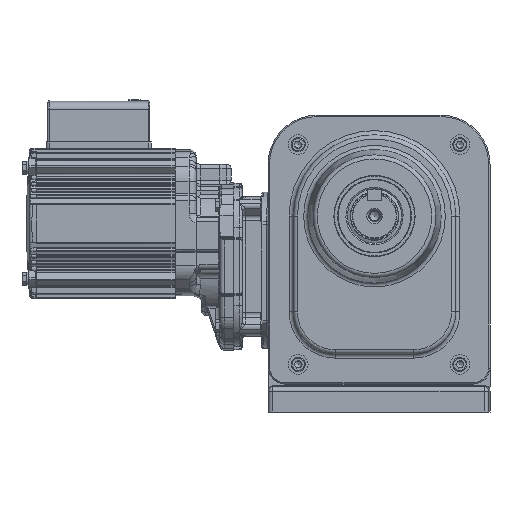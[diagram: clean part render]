
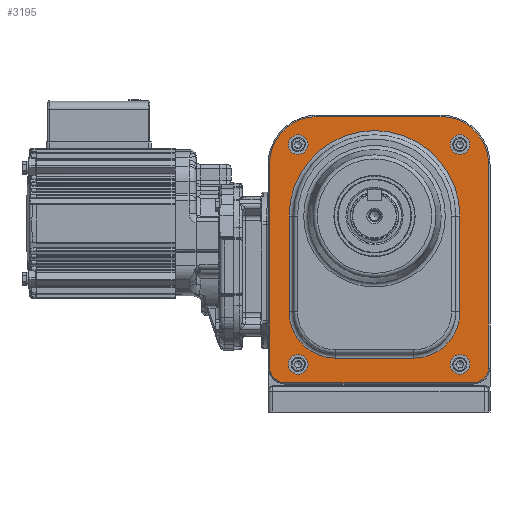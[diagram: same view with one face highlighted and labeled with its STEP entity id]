
A CAD part, front view. The second image highlights one B-rep face of the part: STEP entity #3195.
In plain terms, the highlighted planar face has unit normal (0, -1, 0).
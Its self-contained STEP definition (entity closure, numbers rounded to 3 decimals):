
#3195 = ADVANCED_FACE( '', ( #7649, #7650, #7651, #7652, #7653, #7654 ), #7655, .F. );
#7649 = FACE_BOUND( '', #22214, .T. );
#7650 = FACE_BOUND( '', #22215, .T. );
#7651 = FACE_BOUND( '', #22216, .T. );
#7652 = FACE_BOUND( '', #22217, .T. );
#7653 = FACE_BOUND( '', #22218, .T. );
#7654 = FACE_OUTER_BOUND( '', #22219, .T. );
#7655 = PLANE( '', #22220 );
#22214 = EDGE_LOOP( '', ( #45180 ) );
#22215 = EDGE_LOOP( '', ( #45181 ) );
#22216 = EDGE_LOOP( '', ( #45182 ) );
#22217 = EDGE_LOOP( '', ( #45183 ) );
#22218 = EDGE_LOOP( '', ( #45184, #45185, #45186, #45187, #45188, #45189 ) );
#22219 = EDGE_LOOP( '', ( #45190, #45191, #45192, #45193, #45194, #45195, #45196, #45197 ) );
#22220 = AXIS2_PLACEMENT_3D( '', #45198, #45199, #45200 );
#45180 = ORIENTED_EDGE( '', *, *, #58716, .T. );
#45181 = ORIENTED_EDGE( '', *, *, #55723, .T. );
#45182 = ORIENTED_EDGE( '', *, *, #58717, .T. );
#45183 = ORIENTED_EDGE( '', *, *, #58718, .T. );
#45184 = ORIENTED_EDGE( '', *, *, #58719, .T. );
#45185 = ORIENTED_EDGE( '', *, *, #58720, .T. );
#45186 = ORIENTED_EDGE( '', *, *, #55751, .T. );
#45187 = ORIENTED_EDGE( '', *, *, #58721, .T. );
#45188 = ORIENTED_EDGE( '', *, *, #58722, .T. );
#45189 = ORIENTED_EDGE( '', *, *, #58723, .T. );
#45190 = ORIENTED_EDGE( '', *, *, #56877, .T. );
#45191 = ORIENTED_EDGE( '', *, *, #55504, .T. );
#45192 = ORIENTED_EDGE( '', *, *, #58724, .T. );
#45193 = ORIENTED_EDGE( '', *, *, #58725, .T. );
#45194 = ORIENTED_EDGE( '', *, *, #58726, .T. );
#45195 = ORIENTED_EDGE( '', *, *, #58727, .T. );
#45196 = ORIENTED_EDGE( '', *, *, #58728, .T. );
#45197 = ORIENTED_EDGE( '', *, *, #58729, .T. );
#45198 = CARTESIAN_POINT( '', ( 213., 12.998, -50.212 ) );
#45199 = DIRECTION( '', ( 0., 1., 0. ) );
#45200 = DIRECTION( '', ( 0., 0., -1. ) );
#55504 = EDGE_CURVE( '', #61906, #61904, #61907, .T. );
#55723 = EDGE_CURVE( '', #62300, #62300, #62301, .T. );
#55751 = EDGE_CURVE( '', #62351, #62349, #62352, .T. );
#56877 = EDGE_CURVE( '', #64291, #61906, #64295, .F. );
#58716 = EDGE_CURVE( '', #67162, #67162, #67163, .T. );
#58717 = EDGE_CURVE( '', #67164, #67164, #67165, .T. );
#58718 = EDGE_CURVE( '', #67166, #67166, #67167, .T. );
#58719 = EDGE_CURVE( '', #67168, #67169, #67170, .T. );
#58720 = EDGE_CURVE( '', #67169, #62351, #67171, .T. );
#58721 = EDGE_CURVE( '', #62349, #67172, #67173, .T. );
#58722 = EDGE_CURVE( '', #67172, #67174, #67175, .T. );
#58723 = EDGE_CURVE( '', #67174, #67168, #67176, .T. );
#58724 = EDGE_CURVE( '', #61904, #67177, #67178, .F. );
#58725 = EDGE_CURVE( '', #67177, #67179, #67180, .T. );
#58726 = EDGE_CURVE( '', #67179, #67181, #67182, .F. );
#58727 = EDGE_CURVE( '', #67181, #67183, #67184, .T. );
#58728 = EDGE_CURVE( '', #67183, #67185, #67186, .F. );
#58729 = EDGE_CURVE( '', #67185, #64291, #67187, .T. );
#61904 = VERTEX_POINT( '', #71188 );
#61906 = VERTEX_POINT( '', #71191 );
#61907 = LINE( '', #71192, #71193 );
#62300 = VERTEX_POINT( '', #72024 );
#62301 = CIRCLE( '', #72025, 7. );
#62349 = VERTEX_POINT( '', #72217 );
#62351 = VERTEX_POINT( '', #72219 );
#62352 = CIRCLE( '', #72220, 33. );
#64291 = VERTEX_POINT( '', #77570 );
#64295 = CIRCLE( '', #77575, 11. );
#67162 = VERTEX_POINT( '', #85602 );
#67163 = CIRCLE( '', #85603, 7. );
#67164 = VERTEX_POINT( '', #85604 );
#67165 = CIRCLE( '', #85605, 7. );
#67166 = VERTEX_POINT( '', #85606 );
#67167 = CIRCLE( '', #85607, 7. );
#67168 = VERTEX_POINT( '', #85608 );
#67169 = VERTEX_POINT( '', #85609 );
#67170 = CIRCLE( '', #85610, 33. );
#67171 = LINE( '', #85611, #85612 );
#67172 = VERTEX_POINT( '', #85613 );
#67173 = LINE( '', #85614, #85615 );
#67174 = VERTEX_POINT( '', #85616 );
#67175 = CIRCLE( '', #85617, 61. );
#67176 = LINE( '', #85618, #85619 );
#67177 = VERTEX_POINT( '', #85620 );
#67178 = CIRCLE( '', #85621, 11. );
#67179 = VERTEX_POINT( '', #85622 );
#67180 = LINE( '', #85623, #85624 );
#67181 = VERTEX_POINT( '', #85625 );
#67182 = CIRCLE( '', #85626, 34. );
#67183 = VERTEX_POINT( '', #85627 );
#67184 = LINE( '', #85628, #85629 );
#67185 = VERTEX_POINT( '', #85630 );
#67186 = CIRCLE( '', #85631, 34. );
#67187 = LINE( '', #85632, #85633 );
#71188 = CARTESIAN_POINT( '', ( 213., 12.998, -61.212 ) );
#71191 = CARTESIAN_POINT( '', ( 78.5, 12.998, -61.212 ) );
#71192 = CARTESIAN_POINT( '', ( 213., 12.998, -61.212 ) );
#71193 = VECTOR( '', #94850, 1000. );
#72024 = CARTESIAN_POINT( '', ( 88., 12.999, -41.212 ) );
#72025 = AXIS2_PLACEMENT_3D( '', #95202, #95203, #95204 );
#72217 = CARTESIAN_POINT( '', ( 81.5, 12.999, -10.712 ) );
#72219 = CARTESIAN_POINT( '', ( 114.5, 12.999, -43.712 ) );
#72220 = AXIS2_PLACEMENT_3D( '', #95239, #95240, #95241 );
#77570 = CARTESIAN_POINT( '', ( 67.5, 12.998, -50.212 ) );
#77575 = AXIS2_PLACEMENT_3D( '', #96865, #96866, #96867 );
#85602 = CARTESIAN_POINT( '', ( 88., 13.002, 115.788 ) );
#85603 = AXIS2_PLACEMENT_3D( '', #99443, #99444, #99445 );
#85604 = CARTESIAN_POINT( '', ( 203.5, 12.999, -41.212 ) );
#85605 = AXIS2_PLACEMENT_3D( '', #99446, #99447, #99448 );
#85606 = CARTESIAN_POINT( '', ( 203.5, 13.002, 115.788 ) );
#85607 = AXIS2_PLACEMENT_3D( '', #99449, #99450, #99451 );
#85608 = CARTESIAN_POINT( '', ( 203.5, 12.999, -10.712 ) );
#85609 = CARTESIAN_POINT( '', ( 170.5, 12.999, -43.712 ) );
#85610 = AXIS2_PLACEMENT_3D( '', #99452, #99453, #99454 );
#85611 = CARTESIAN_POINT( '', ( 213., 12.999, -43.712 ) );
#85612 = VECTOR( '', #99455, 1000. );
#85613 = CARTESIAN_POINT( '', ( 81.5, 13.001, 57.788 ) );
#85614 = CARTESIAN_POINT( '', ( 81.5, 12.998, -50.212 ) );
#85615 = VECTOR( '', #99456, 1000. );
#85616 = CARTESIAN_POINT( '', ( 203.5, 13.001, 57.788 ) );
#85617 = AXIS2_PLACEMENT_3D( '', #99457, #99458, #99459 );
#85618 = CARTESIAN_POINT( '', ( 203.5, 12.998, -50.212 ) );
#85619 = VECTOR( '', #99460, 1000. );
#85620 = CARTESIAN_POINT( '', ( 224., 12.998, -50.212 ) );
#85621 = AXIS2_PLACEMENT_3D( '', #99461, #99462, #99463 );
#85622 = CARTESIAN_POINT( '', ( 224., 13.002, 94.788 ) );
#85623 = CARTESIAN_POINT( '', ( 224., 13.002, 94.788 ) );
#85624 = VECTOR( '', #99464, 1000. );
#85625 = CARTESIAN_POINT( '', ( 190., 13.002, 128.788 ) );
#85626 = AXIS2_PLACEMENT_3D( '', #99465, #99466, #99467 );
#85627 = CARTESIAN_POINT( '', ( 101.5, 13.002, 128.788 ) );
#85628 = CARTESIAN_POINT( '', ( 101.5, 13.002, 128.788 ) );
#85629 = VECTOR( '', #99468, 1000. );
#85630 = CARTESIAN_POINT( '', ( 67.5, 13.002, 94.788 ) );
#85631 = AXIS2_PLACEMENT_3D( '', #99469, #99470, #99471 );
#85632 = CARTESIAN_POINT( '', ( 67.5, 12.998, -50.212 ) );
#85633 = VECTOR( '', #99472, 1000. );
#94850 = DIRECTION( '', ( 1., 0., 0. ) );
#95202 = CARTESIAN_POINT( '', ( 88., 12.999, -48.212 ) );
#95203 = DIRECTION( '', ( 0., 1., 0. ) );
#95204 = DIRECTION( '', ( 0., 0., 1. ) );
#95239 = CARTESIAN_POINT( '', ( 114.5, 12.999, -10.712 ) );
#95240 = DIRECTION( '', ( 0., 1., 0. ) );
#95241 = DIRECTION( '', ( 0., 0., -1. ) );
#96865 = CARTESIAN_POINT( '', ( 78.5, 12.998, -50.212 ) );
#96866 = DIRECTION( '', ( 0., 1., 0. ) );
#96867 = DIRECTION( '', ( 0., 0., -1. ) );
#99443 = CARTESIAN_POINT( '', ( 88., 13.002, 108.788 ) );
#99444 = DIRECTION( '', ( 0., 1., 0. ) );
#99445 = DIRECTION( '', ( 0., 0., 1. ) );
#99446 = CARTESIAN_POINT( '', ( 203.5, 12.999, -48.212 ) );
#99447 = DIRECTION( '', ( 0., 1., 0. ) );
#99448 = DIRECTION( '', ( 0., 0., 1. ) );
#99449 = CARTESIAN_POINT( '', ( 203.5, 13.002, 108.788 ) );
#99450 = DIRECTION( '', ( 0., 1., 0. ) );
#99451 = DIRECTION( '', ( 0., 0., 1. ) );
#99452 = CARTESIAN_POINT( '', ( 170.5, 12.999, -10.712 ) );
#99453 = DIRECTION( '', ( 0., 1., 0. ) );
#99454 = DIRECTION( '', ( 0., 0., -1. ) );
#99455 = DIRECTION( '', ( -1., 0., 0. ) );
#99456 = DIRECTION( '', ( 0., 0., 1. ) );
#99457 = CARTESIAN_POINT( '', ( 142.5, 13.001, 57.788 ) );
#99458 = DIRECTION( '', ( 0., 1., 0. ) );
#99459 = DIRECTION( '', ( 0., 0., -1. ) );
#99460 = DIRECTION( '', ( 0., 0., -1. ) );
#99461 = CARTESIAN_POINT( '', ( 213., 12.998, -50.212 ) );
#99462 = DIRECTION( '', ( 0., 1., 0. ) );
#99463 = DIRECTION( '', ( 0., 0., -1. ) );
#99464 = DIRECTION( '', ( 0., 0., 1. ) );
#99465 = CARTESIAN_POINT( '', ( 190., 13.002, 94.788 ) );
#99466 = DIRECTION( '', ( 0., 1., 0. ) );
#99467 = DIRECTION( '', ( 0., 0., -1. ) );
#99468 = DIRECTION( '', ( -1., 0., 0. ) );
#99469 = CARTESIAN_POINT( '', ( 101.5, 13.002, 94.788 ) );
#99470 = DIRECTION( '', ( 0., 1., 0. ) );
#99471 = DIRECTION( '', ( 0., 0., -1. ) );
#99472 = DIRECTION( '', ( 0., 0., -1. ) );
